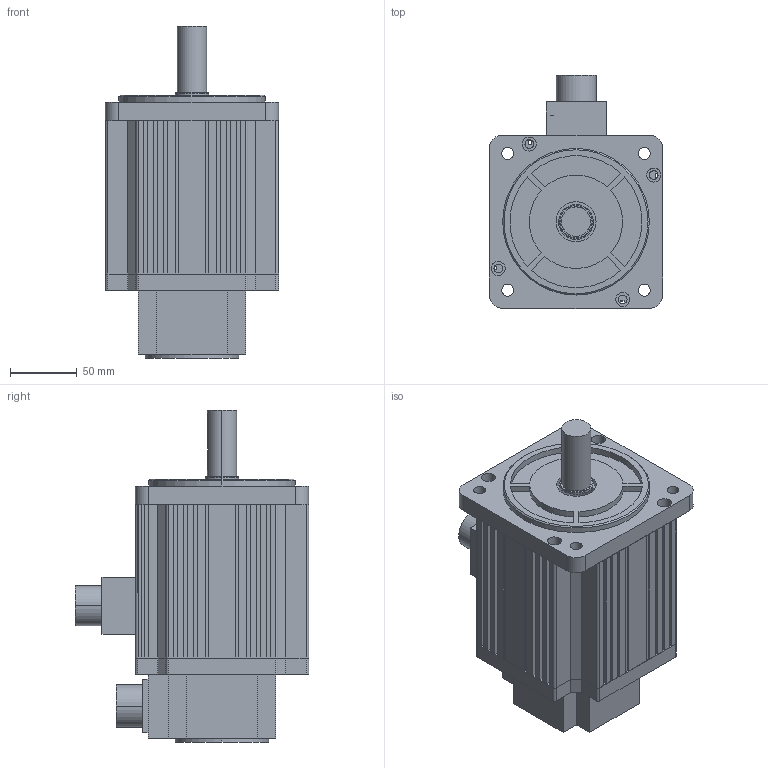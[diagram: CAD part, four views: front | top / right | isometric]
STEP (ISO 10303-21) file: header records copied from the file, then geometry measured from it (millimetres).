
FILE_DESCRIPTION (( 'STEP AP203' ), '1' );
FILE_NAME ('130-07725.STEP', '2020-03-09T13:23:14', ( '' ), ( '' ), 'SwSTEP 2.0', 'SolidWorks 2016', '' );
FILE_SCHEMA (( 'CONFIG_CONTROL_DESIGN' ));
Length unit declared in the file: millimetre
Products named in the file (8): 130粣; 130晤鎢ん; 130瑤脣2; 130侜督綴裔; 130瑤脣; 130-7.7N隅赽; 130-07725; 130侜督ヶ裔
Assembly tree (7 placements, depth 2):
  130-07725
    130-7.7N隅赽
    130侜督ヶ裔
    130侜督綴裔
    130晤鎢ん
    130粣
    130瑤脣2
    130瑤脣
Bounding box: 130 x 175 x 249 mm (x, y, z)
Volume: 1089208.8 mm3; surface area: 305005.9 mm2
Topology: 8 solids, 8 shells, 534 faces, 1345 edges, 880 vertices
Faces by surface type: plane 337, cylinder 181, cone 10, bspline 4, torus 2
Entity records: 16918 total; most frequent: CARTESIAN_POINT 2871, DIRECTION 2797, ORIENTED_EDGE 2674, EDGE_CURVE 1337, AXIS2_PLACEMENT_3D 936, VECTOR 925, LINE 925, VERTEX_POINT 880
